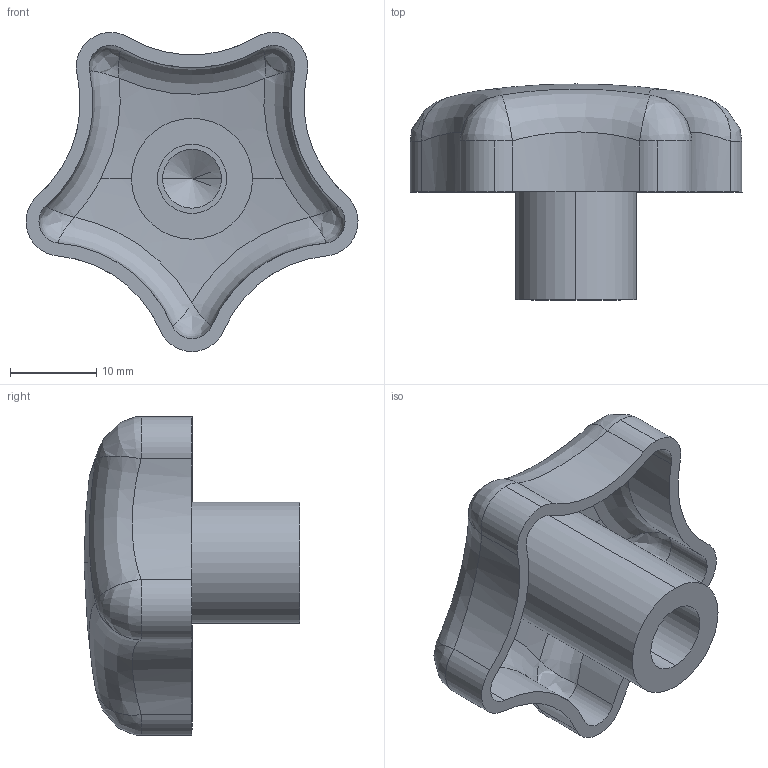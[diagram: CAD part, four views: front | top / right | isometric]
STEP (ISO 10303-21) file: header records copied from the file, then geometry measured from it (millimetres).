
FILE_DESCRIPTION (( 'STEP AP203' ), '1' );
FILE_NAME ('7016.W440.step', '2010-01-31T12:12:56', ( 'Wixroyd' ), ( 'Wixroyd' ), 'SwSTEP 2.0', 'SolidWorks 2009', '' );
FILE_SCHEMA (( 'CONFIG_CONTROL_DESIGN' ));
Length unit declared in the file: millimetre
Products named in the file (1): 7016.W440
Bounding box: 38.43 x 25 x 36.94 mm (x, y, z)
Volume: 5467.1 mm3; surface area: 5329.8 mm2
Topology: 1 solids, 1 shells, 59 faces, 146 edges, 80 vertices
Faces by surface type: cylinder 30, bspline 20, sphere 4, plane 3, cone 2
Entity records: 12483 total; most frequent: CARTESIAN_POINT 11186, ORIENTED_EDGE 268, DIRECTION 228, EDGE_CURVE 134, AXIS2_PLACEMENT_3D 98, VERTEX_POINT 80, EDGE_LOOP 62, ADVANCED_FACE 59
